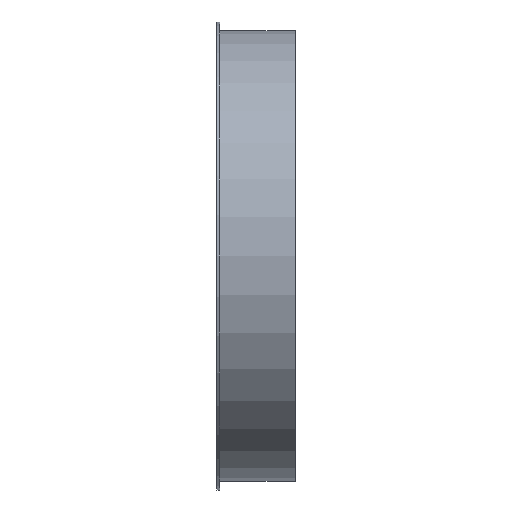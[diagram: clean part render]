
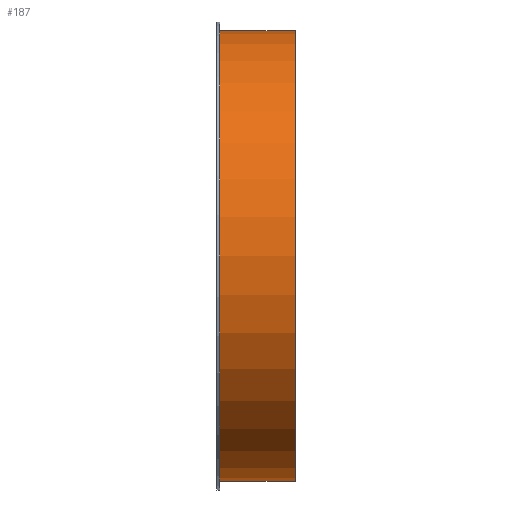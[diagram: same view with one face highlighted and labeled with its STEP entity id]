
A CAD part, front view. The second image highlights one B-rep face of the part: STEP entity #187.
In plain terms, the highlighted cylindrical face has radius 158 mm (diameter 316 mm), a full revolution.
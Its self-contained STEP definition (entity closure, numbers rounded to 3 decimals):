
#112=CARTESIAN_POINT('',(-15.,0.,0.0));
#113=VERTEX_POINT('',#112);
#114=CARTESIAN_POINT('',(-15.,158.,0.0));
#115=DIRECTION('',(-1.0,0.0,0.0));
#116=DIRECTION('',(0.0,-1.0,0.0));
#117=AXIS2_PLACEMENT_3D('',#114,#115,#116);
#118=CIRCLE('',#117,158.);
#119=EDGE_CURVE('',#113,#113,#118,.T.);
#161=CARTESIAN_POINT('',(38.0,0.,0.0));
#162=VERTEX_POINT('',#161);
#163=CARTESIAN_POINT('',(38.0,158.,0.0));
#164=DIRECTION('',(-1.0,0.0,0.0));
#165=DIRECTION('',(0.0,-1.0,0.0));
#166=AXIS2_PLACEMENT_3D('',#163,#164,#165);
#167=CIRCLE('',#166,158.);
#168=EDGE_CURVE('',#162,#162,#167,.T.);
#176=CARTESIAN_POINT('',(11.5,158.,0.0));
#177=DIRECTION('',(-1.0,0.0,0.0));
#178=DIRECTION('',(0.0,-1.0,0.0));
#179=AXIS2_PLACEMENT_3D('',#176,#177,#178);
#180=CYLINDRICAL_SURFACE('',#179,158.);
#181=ORIENTED_EDGE('',*,*,#119,.F.);
#182=EDGE_LOOP('',(#181));
#183=FACE_OUTER_BOUND('',#182,.T.);
#184=ORIENTED_EDGE('',*,*,#168,.T.);
#185=EDGE_LOOP('',(#184));
#186=FACE_BOUND('',#185,.T.);
#187=ADVANCED_FACE('',(#183,#186),#180,.T.);
